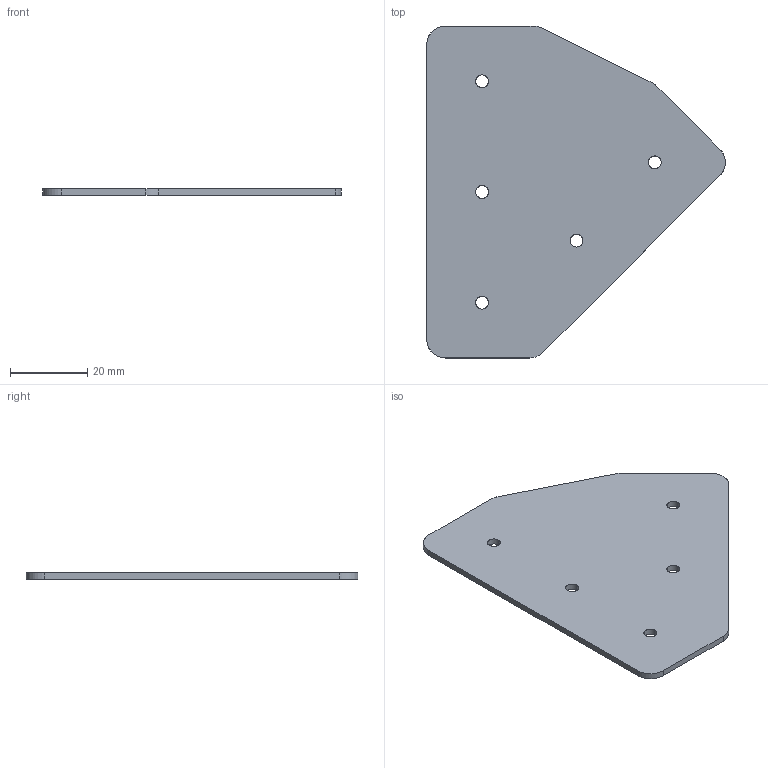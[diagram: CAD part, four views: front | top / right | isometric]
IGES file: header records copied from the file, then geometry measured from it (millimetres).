
Start section: SolidWorks IGES file using analytic representation for surfaces
Global section: file name: C:\Working\Gusset Convert\DRP-002-0005-01.igs; native system: SolidWorks 2010; preprocessor: SolidWorks 2010; author: mbush2; date: 100624.085901; units: inch
Bounding box: 77.08 x 85.72 x 1.59 mm (x, y, z)
Surface area: 9932.9 mm2 (no closed solid volume)
Topology: 0 solids, 0 shells, 24 faces, 484 edges, 484 vertices
Faces by surface type: revolution 16, bspline 8
